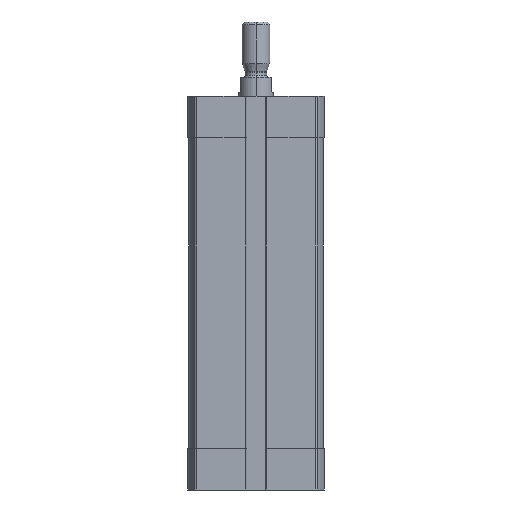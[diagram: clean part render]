
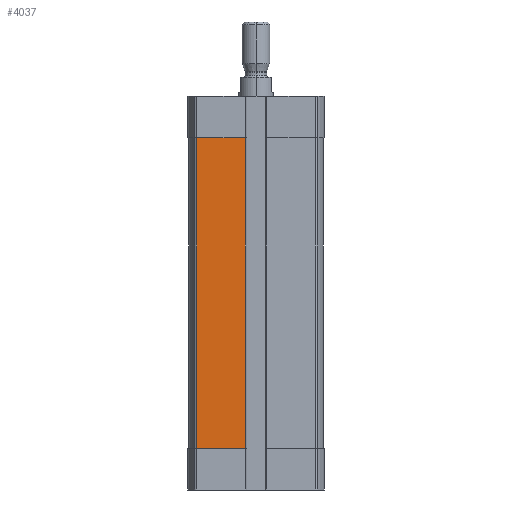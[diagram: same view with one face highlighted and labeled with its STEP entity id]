
A CAD part, left-side view. The second image highlights one B-rep face of the part: STEP entity #4037.
In plain terms, the highlighted planar face has unit normal (-1, 0, 0).
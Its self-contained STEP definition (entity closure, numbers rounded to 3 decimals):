
#107 = LINE ( 'NONE', #2562, #5247 ) ;
#298 = VECTOR ( 'NONE', #4175, 1000. ) ;
#520 = CARTESIAN_POINT ( 'NONE',  ( -19.5, 17.091, -102. ) ) ;
#716 = CARTESIAN_POINT ( 'NONE',  ( -19.5, 3.1, -12. ) ) ;
#1987 = VERTEX_POINT ( 'NONE', #716 ) ;
#2376 = DIRECTION ( 'NONE',  ( 0., -1., 0. ) ) ;
#2562 = CARTESIAN_POINT ( 'NONE',  ( -19.5, 17.091, -102. ) ) ;
#3040 = VERTEX_POINT ( 'NONE', #10817 ) ;
#3065 = LINE ( 'NONE', #11357, #298 ) ;
#3306 = VECTOR ( 'NONE', #12953, 1000. ) ;
#3342 = FACE_OUTER_BOUND ( 'NONE', #6379, .T. ) ;
#3392 = ORIENTED_EDGE ( 'NONE', *, *, #3806, .T. ) ;
#3400 = LINE ( 'NONE', #10434, #8565 ) ;
#3806 = EDGE_CURVE ( 'NONE', #7068, #10336, #107, .T. ) ;
#4037 = ADVANCED_FACE ( 'NONE', ( #3342 ), #7929, .T. ) ;
#4175 = DIRECTION ( 'NONE',  ( 0., 0., -1. ) ) ;
#4831 = CARTESIAN_POINT ( 'NONE',  ( -19.5, 0., -12. ) ) ;
#5247 = VECTOR ( 'NONE', #2376, 1000. ) ;
#5276 = CARTESIAN_POINT ( 'NONE',  ( -19.5, 3.1, -102. ) ) ;
#6379 = EDGE_LOOP ( 'NONE', ( #3392, #6642, #7081, #10481 ) ) ;
#6642 = ORIENTED_EDGE ( 'NONE', *, *, #9870, .T. ) ;
#7068 = VERTEX_POINT ( 'NONE', #11816 ) ;
#7081 = ORIENTED_EDGE ( 'NONE', *, *, #8404, .T. ) ;
#7929 = PLANE ( 'NONE',  #9130 ) ;
#8404 = EDGE_CURVE ( 'NONE', #1987, #3040, #11163, .T. ) ;
#8565 = VECTOR ( 'NONE', #11445, 1000. ) ;
#8887 = DIRECTION ( 'NONE',  ( -1., 0., 0. ) ) ;
#9130 = AXIS2_PLACEMENT_3D ( 'NONE', #520, #8887, #9898 ) ;
#9870 = EDGE_CURVE ( 'NONE', #10336, #1987, #3400, .T. ) ;
#9898 = DIRECTION ( 'NONE',  ( 0., 0., 1. ) ) ;
#10336 = VERTEX_POINT ( 'NONE', #5276 ) ;
#10434 = CARTESIAN_POINT ( 'NONE',  ( -19.5, 3.1, -102. ) ) ;
#10481 = ORIENTED_EDGE ( 'NONE', *, *, #10908, .T. ) ;
#10817 = CARTESIAN_POINT ( 'NONE',  ( -19.5, 17.091, -12. ) ) ;
#10908 = EDGE_CURVE ( 'NONE', #3040, #7068, #3065, .T. ) ;
#11163 = LINE ( 'NONE', #4831, #3306 ) ;
#11357 = CARTESIAN_POINT ( 'NONE',  ( -19.5, 17.091, -102. ) ) ;
#11445 = DIRECTION ( 'NONE',  ( 0., 0., 1. ) ) ;
#11816 = CARTESIAN_POINT ( 'NONE',  ( -19.5, 17.091, -102. ) ) ;
#12953 = DIRECTION ( 'NONE',  ( 0., 1., 0. ) ) ;
